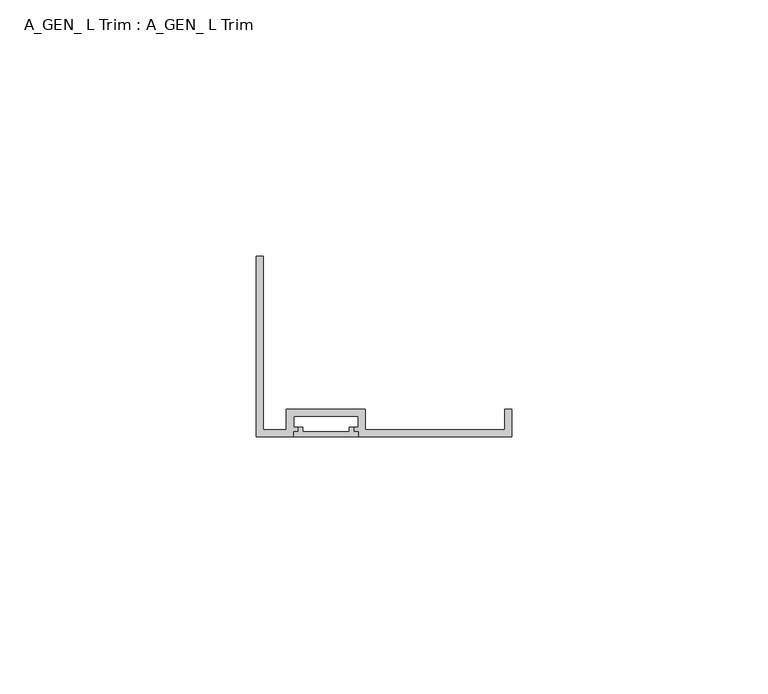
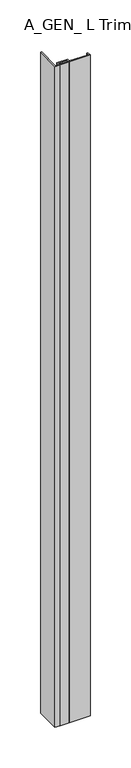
"""IFC4 building model written with IfcOpenShell, lengths in millimetres: proxy geometry, A_GEN_ L Trim : A_GEN_ L Trim."""

from ifc_helpers import new_model, si_unit, origin, origin_with_axes, place, context, project, spatial, polyline, outline, extrude, source, transform, mapped, element, save


def a_gen_l_trim_a_gen_l_trim_de64ca03(model_context):
    return source(origin(), model_context, "Body", "SweptSolid", [
        extrude(outline(polyline([(-12.5966009, -5.4), (-12.5966009, -4.4231314), (-11.6966009, -4.4231314), (-11.6966009, -3.5231314), (-10.8214453, -3.5231314), (-10.8214453, -4.4231314), (-1.7751556, -4.4231314), (-1.7751556, -3.5231314), (-0.9, -3.5231314), (-0.9, -4.4231314), (0.0, -4.4231314), (0.0, -5.4), (-12.5966009, -5.4)])), origin_with_axes(), (0.0, 0.0, 1.0), 992.5516144),
        extrude(outline(polyline([(0.0, -4.4231314), (-0.9, -4.4231314), (-0.9, -3.5231314), (0.0, -3.5231314), (0.0, -1.4), (-12.6166009, -1.4), (-12.6166009, -3.5231314), (-11.7166009, -3.5231314), (-11.7166009, -4.4231314), (-12.6166009, -4.4231314), (-12.6166009, -5.4), (-19.9435463, -5.4), (-19.9435463, 29.8565246), (-18.5435463, 29.8565246), (-18.5435463, -4.0), (-14.0166009, -4.0), (-14.0166009, 0.0), (1.4, 0.0), (1.4, -4.0), (28.5980418, -4.0), (28.5980418, 0.0), (29.9980418, 0.0), (29.9980418, -5.4), (0.0, -5.4), (0.0, -4.4231314)])), origin_with_axes(), (0.0, 0.0, 1.0), 992.5516144),
    ])


if __name__ == "__main__":
    model = new_model("IFC4")
    model_context = context("Model", 3, world=origin())
    ifc_project = project(units=[si_unit("LENGTHUNIT", "METRE", prefix="MILLI")], contexts=[model_context])
    site = spatial("IfcSite", under=ifc_project)
    building = spatial("IfcBuilding", under=site)
    placement = place(None, origin())
    a_gen_l_trim_a_gen_l_trim_shape = a_gen_l_trim_a_gen_l_trim_de64ca03(model_context)
    element("IfcBuildingElementProxy", 1, Name="A_GEN_ L Trim : A_GEN_ L Trim", ObjectType="A_GEN_ L Trim : A_GEN_ L Trim", at=placement, inside=building, context=model_context, shape_type="MappedRepresentation", body=[
        mapped(a_gen_l_trim_a_gen_l_trim_shape, transform((0.0, 0.0, 0.0), x_axis=(1.0, 0.0, 0.0), y_axis=(0.0, 1.0, 0.0), z_axis=(0.0, 0.0, 1.0))),
    ])
    save(model, "model.ifc")
